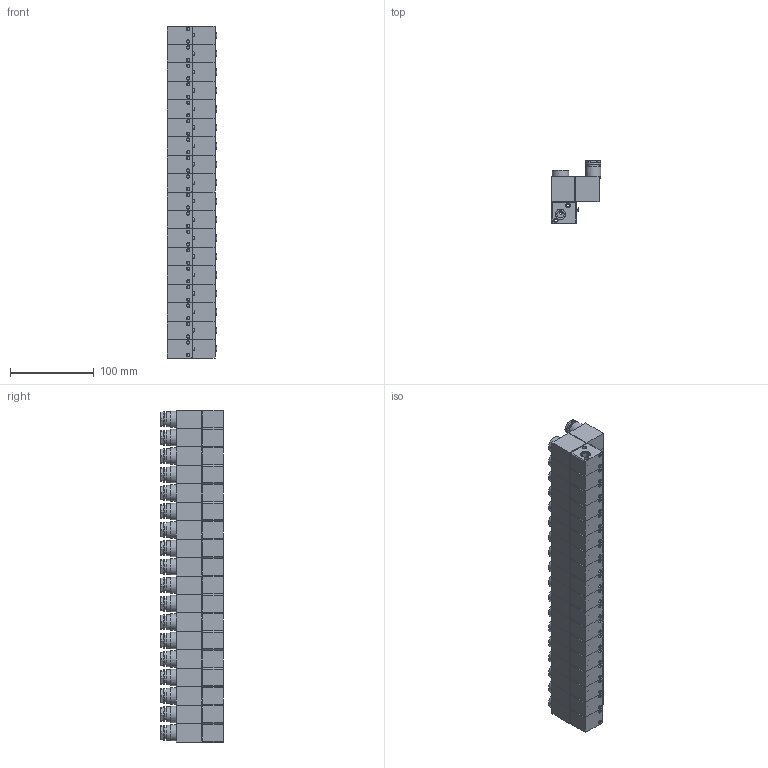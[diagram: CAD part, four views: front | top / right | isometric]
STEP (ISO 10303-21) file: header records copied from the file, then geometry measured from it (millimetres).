
FILE_DESCRIPTION(/* description */ ('STEP AP214'),/* implementation_level */ '2;1');
FILE_NAME(/* name */ '86-MS-3V-18-xxx.stp',/* time_stamp */ '2026-01-15T09:35:57+01:00',/* author */ ('Tschernatsch'),/* organization */ ('CADENAS'),/* preprocessor_version */ 'ST-DEVELOPER v20',/* originating_system */ 'Autodesk Inventor 2024',/* authorisation */ ' ');
FILE_SCHEMA (('AUTOMOTIVE_DESIGN { 1 0 10303 214 3 1 1 }'));
Length unit declared in the file: millimetre
Products named in the file (3): 3v1-06-LD-DC24V-18F; 3v1-06-LD-DC24V-18F3; 3v1-06-LD-DC24V-18F2
Assembly tree (36 placements, depth 2):
  3v1-06-LD-DC24V-18F
    3v1-06-LD-DC24V-18F3  x18
    3v1-06-LD-DC24V-18F2  x18
Bounding box: 59 x 75 x 396 mm (x, y, z)
Volume: 1047565 mm3; surface area: 267493.4 mm2
Topology: 36 solids, 36 shells, 1620 faces, 3510 edges, 2322 vertices
Faces by surface type: plane 1098, cylinder 450, cone 72
Full cylindrical faces by diameter (mm): 3.242 x36, 3.5 x54, 4 x18, 4.3 x18, 5.2 x72, 8.566 x54, 11 x18, 12 x36, 14.4 x18, 18 x36, 19.6 x18
Entity records: 2873 total; most frequent: DIRECTION 525, CARTESIAN_POINT 455, ORIENTED_EDGE 390, AXIS2_PLACEMENT_3D 202, EDGE_CURVE 195, VERTEX_POINT 129, LINE 121, VECTOR 121
